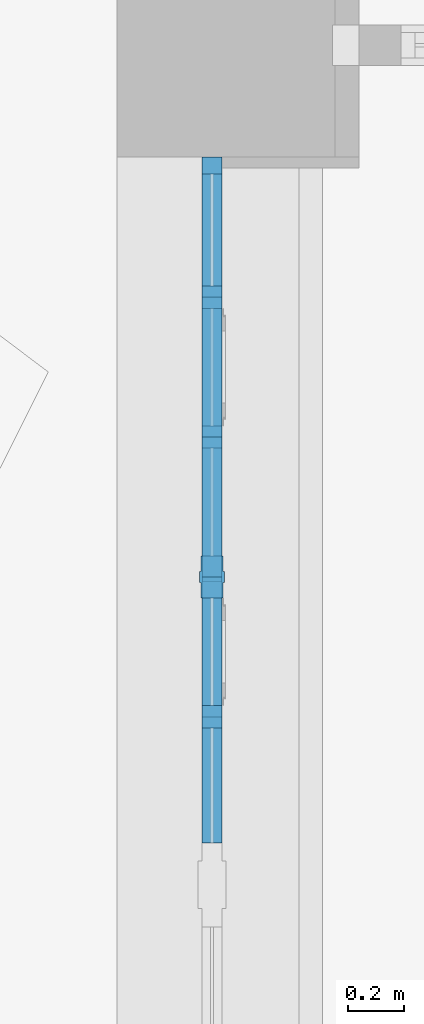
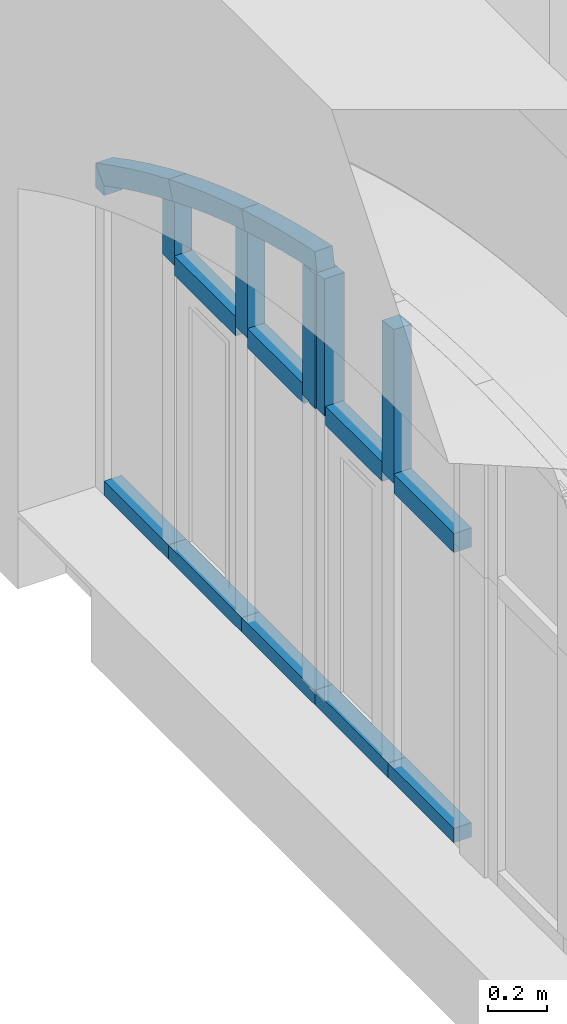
# One storey, part 23 of 88: 17 members, 1 element without a shape of its own.
"""IFC2X3 building model written with IfcOpenShell, lengths in millimetres."""

from ifc_helpers import new_model, entity, si_unit, converted_unit, derived_unit, direction, frame, frame_2d, origin, place, context, subcontext, project, spatial, polyline, circle_curve, parameter, trimmed, segment, composite_curve, rectangle, outline, extrude, faceted_brep, source, transform, mapped, material, type_object, type_shapes, element, aggregate, save


model = new_model("IFC2X3")

# Units and contexts
model_context = context("Model", 3, precision=0.01, world=origin(), true_north=direction((6.123031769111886e-17, 1.0)))
body_context = subcontext(model_context, "Body", "Model", "MODEL_VIEW")
ifc_project = project(units=[si_unit("LENGTHUNIT", "METRE", prefix="MILLI"), si_unit("AREAUNIT", "SQUARE_METRE"), si_unit("VOLUMEUNIT", "CUBIC_METRE"), converted_unit("PLANEANGLEUNIT", "DEGREE", entity("IfcPlaneAngleMeasure", 0.017453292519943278), si_unit("PLANEANGLEUNIT", "RADIAN"), dimensions=[0, 0, 0, 0, 0, 0, 0]), si_unit("MASSUNIT", "GRAM", prefix="KILO"), derived_unit("MASSDENSITYUNIT", [(si_unit("MASSUNIT", "GRAM", prefix="KILO"), 1), (si_unit("LENGTHUNIT", "METRE"), -3)]), derived_unit("IONCONCENTRATIONUNIT", [(si_unit("MASSUNIT", "GRAM", prefix="KILO"), 1), (si_unit("LENGTHUNIT", "METRE"), -3)]), derived_unit("MOMENTOFINERTIAUNIT", [(si_unit("LENGTHUNIT", "METRE"), 4)]), si_unit("TIMEUNIT", "SECOND"), si_unit("FREQUENCYUNIT", "HERTZ"), si_unit("THERMODYNAMICTEMPERATUREUNIT", "DEGREE_CELSIUS"), derived_unit("THERMALTRANSMITTANCEUNIT", [(si_unit("MASSUNIT", "GRAM", prefix="KILO"), 1), (si_unit("THERMODYNAMICTEMPERATUREUNIT", "KELVIN"), -1), (si_unit("TIMEUNIT", "SECOND"), -3)]), derived_unit("THERMALCONDUCTANCEUNIT", [(si_unit("MASSUNIT", "GRAM", prefix="KILO"), 1), (si_unit("THERMODYNAMICTEMPERATUREUNIT", "KELVIN"), -1), (si_unit("TIMEUNIT", "SECOND"), -3), (si_unit("LENGTHUNIT", "METRE"), 1)]), derived_unit("VOLUMETRICFLOWRATEUNIT", [(si_unit("LENGTHUNIT", "METRE", prefix="DECI"), 3), (si_unit("TIMEUNIT", "SECOND"), -1)]), derived_unit("MASSFLOWRATEUNIT", [(si_unit("MASSUNIT", "GRAM", prefix="KILO"), 1), (si_unit("TIMEUNIT", "SECOND"), -1)]), derived_unit("ROTATIONALFREQUENCYUNIT", [(si_unit("TIMEUNIT", "SECOND"), -1)]), si_unit("ELECTRICCURRENTUNIT", "AMPERE"), si_unit("ELECTRICVOLTAGEUNIT", "VOLT"), si_unit("POWERUNIT", "WATT"), si_unit("FORCEUNIT", "NEWTON", prefix="KILO"), si_unit("ILLUMINANCEUNIT", "LUX"), si_unit("LUMINOUSFLUXUNIT", "LUMEN"), si_unit("LUMINOUSINTENSITYUNIT", "CANDELA"), si_unit("ENERGYUNIT", "JOULE"), derived_unit("USERDEFINED", [(si_unit("MASSUNIT", "GRAM", prefix="KILO"), -1), (si_unit("LENGTHUNIT", "METRE"), -2), (si_unit("TIMEUNIT", "SECOND"), 3), (si_unit("LUMINOUSFLUXUNIT", "LUMEN"), 1)]), derived_unit("USERDEFINED", [(si_unit("MASSUNIT", "GRAM", prefix="KILO"), 1), (si_unit("TIMEUNIT", "SECOND"), -3), (si_unit("LENGTHUNIT", "METRE"), 3), (si_unit("ELECTRICCURRENTUNIT", "AMPERE"), -2)]), derived_unit("SOUNDPOWERUNIT", [(si_unit("MASSUNIT", "GRAM", prefix="KILO"), 1), (si_unit("TIMEUNIT", "SECOND"), -3), (si_unit("LENGTHUNIT", "METRE"), 2)]), derived_unit("SOUNDPRESSUREUNIT", [(si_unit("MASSUNIT", "GRAM", prefix="KILO"), 1), (si_unit("LENGTHUNIT", "METRE"), -1), (si_unit("TIMEUNIT", "SECOND"), -2)]), derived_unit("LINEARVELOCITYUNIT", [(si_unit("LENGTHUNIT", "METRE"), 1), (si_unit("TIMEUNIT", "SECOND"), -1)]), si_unit("PRESSUREUNIT", "PASCAL"), derived_unit("USERDEFINED", [(si_unit("MASSUNIT", "GRAM", prefix="KILO"), 1), (si_unit("LENGTHUNIT", "METRE"), -2), (si_unit("TIMEUNIT", "SECOND"), -2)]), derived_unit("LINEARFORCEUNIT", [(si_unit("MASSUNIT", "GRAM", prefix="KILO"), 1), (si_unit("TIMEUNIT", "SECOND"), -2)]), derived_unit("PLANARFORCEUNIT", [(si_unit("MASSUNIT", "GRAM", prefix="KILO"), 1), (si_unit("LENGTHUNIT", "METRE"), -1), (si_unit("TIMEUNIT", "SECOND"), -2)]), derived_unit("SPECIFICHEATCAPACITYUNIT", [(si_unit("THERMODYNAMICTEMPERATUREUNIT", "KELVIN"), -1), (si_unit("LENGTHUNIT", "METRE"), 2), (si_unit("TIMEUNIT", "SECOND"), -2)]), derived_unit("HEATFLUXDENSITYUNIT", [(si_unit("MASSUNIT", "GRAM", prefix="KILO"), 1), (si_unit("TIMEUNIT", "SECOND"), -3)]), derived_unit("HEATINGVALUEUNIT", [(si_unit("LENGTHUNIT", "METRE"), 2), (si_unit("TIMEUNIT", "SECOND"), -2)]), derived_unit("VAPORPERMEABILITYUNIT", [(si_unit("LENGTHUNIT", "METRE"), -1), (si_unit("TIMEUNIT", "SECOND"), 1)]), derived_unit("DYNAMICVISCOSITYUNIT", [(si_unit("MASSUNIT", "GRAM", prefix="KILO"), 1), (si_unit("TIMEUNIT", "SECOND"), -1), (si_unit("LENGTHUNIT", "METRE"), -1)]), derived_unit("THERMALEXPANSIONCOEFFICIENTUNIT", [(si_unit("THERMODYNAMICTEMPERATUREUNIT", "KELVIN"), -1)]), derived_unit("MODULUSOFELASTICITYUNIT", [(si_unit("MASSUNIT", "GRAM", prefix="KILO"), 1), (si_unit("LENGTHUNIT", "METRE"), -1), (si_unit("TIMEUNIT", "SECOND"), -2)]), derived_unit("ISOTHERMALMOISTURECAPACITYUNIT", [(si_unit("MASSUNIT", "GRAM", prefix="KILO"), -1), (si_unit("LENGTHUNIT", "METRE"), 3)]), derived_unit("MOISTUREDIFFUSIVITYUNIT", [(si_unit("TIMEUNIT", "SECOND"), -1), (si_unit("LENGTHUNIT", "METRE"), 2)]), derived_unit("MASSPERLENGTHUNIT", [(si_unit("MASSUNIT", "GRAM", prefix="KILO"), 1), (si_unit("LENGTHUNIT", "METRE"), -1)]), derived_unit("THERMALRESISTANCEUNIT", [(si_unit("MASSUNIT", "GRAM", prefix="KILO"), -1), (si_unit("TIMEUNIT", "SECOND"), 3), (si_unit("THERMODYNAMICTEMPERATUREUNIT", "KELVIN"), 1)]), derived_unit("ACCELERATIONUNIT", [(si_unit("LENGTHUNIT", "METRE"), 1), (si_unit("TIMEUNIT", "SECOND"), -2)]), derived_unit("ANGULARVELOCITYUNIT", [(si_unit("TIMEUNIT", "SECOND"), -1), (si_unit("PLANEANGLEUNIT", "RADIAN"), 1)]), derived_unit("LINEARSTIFFNESSUNIT", [(si_unit("MASSUNIT", "GRAM", prefix="KILO"), 1), (si_unit("TIMEUNIT", "SECOND"), -2)]), derived_unit("WARPINGCONSTANTUNIT", [(si_unit("LENGTHUNIT", "METRE"), 6)]), derived_unit("LINEARMOMENTUNIT", [(si_unit("MASSUNIT", "GRAM", prefix="KILO"), 1), (si_unit("LENGTHUNIT", "METRE"), 1), (si_unit("TIMEUNIT", "SECOND"), -2)]), derived_unit("TORQUEUNIT", [(si_unit("MASSUNIT", "GRAM", prefix="KILO"), 1), (si_unit("LENGTHUNIT", "METRE"), 2), (si_unit("TIMEUNIT", "SECOND"), -2)])], contexts=[model_context])

# Site, building, storey
site_placement = place(None, origin())
site = spatial("IfcSite", under=ifc_project, at=site_placement, Name="Default", CompositionType="ELEMENT")
building_placement = place(site_placement, origin())
building = spatial("IfcBuilding", under=site, at=building_placement, Name="Eesti Rahvusraamatukogu hoone renoveerimise projekteerimistööd", CompositionType="ELEMENT")
storey_placement = place(building_placement, origin())
storey = spatial("IfcBuildingStorey", under=building, at=storey_placement, Name="1. korrus", CompositionType="ELEMENT", Elevation=0.0)

# Curtain wall, members
curtain_wall_type = type_object("IfcCurtainWallType", Name="Curtain Wall:Ak-02", PredefinedType="NOTDEFINED")
curtain_wall_placement = place(storey_placement, origin())
curtain_wall = element("IfcCurtainWall", 1, at=curtain_wall_placement, inside=storey, type_object=curtain_wall_type, Name="Curtain Wall:Ak-02", ObjectType="Curtain Wall:Ak-02")
ifc_material = material(Name="LUMION_dark steel window frames")
member_type_1 = type_object("IfcMemberType", Name="Rectangular Mullion:NEW 80x70mm", PredefinedType="MULLION", material=ifc_material)
shared_shape_1 = source(origin(), body_context, "Body", "SweptSolid", [
    extrude(outline(composite_curve([segment(trimmed(circle_curve(frame_2d((5127.857298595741, 1916.0902897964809), x_axis=(-0.9185017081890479, -0.39541701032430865)), 5520.7156800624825), [parameter(354.2613575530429)], [parameter(359.99999999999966)], True, "PARAMETER"), True, "CONTINUOUS"), segment(polyline([(57.07051603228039, -266.8945992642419), (130.55065268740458, -235.2612384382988)]), True, "CONTINUOUS"), segment(trimmed(circle_curve(frame_2d((5127.857298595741, 1916.0902897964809), x_axis=(-0.9185017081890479, -0.39541701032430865)), 5440.7156800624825), [parameter(354.52804849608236)], [parameter(359.99999999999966)], True, "PARAMETER"), False, "CONTINUOUS"), segment(polyline([(-51.82617782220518, 251.07791885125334), (-135.79499089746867, 251.0779188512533)]), True, "CONTINUOUS")], self_intersect=False)), frame((-53.11529804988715, -35.0, -267.709798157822), z_axis=(0.0, -1.0, 0.0), x_axis=(-0.918501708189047, 0.0, 0.3954170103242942)), (0.0, 0.0, -1.0), 69.99999999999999),
])
type_shapes(member_type_1, [shared_shape_1])
member_1_placement = place(curtain_wall_placement, frame((-36440.0, 11490.0, 3555.5687442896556), z_axis=(0.0, -0.9248280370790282, 0.3803854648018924), x_axis=(0.0, 0.3803854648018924, 0.9248280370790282)))
member_1 = element("IfcMember", 2, at=member_1_placement, type_object=member_type_1, material=ifc_material, Name="Rectangular Mullion:NEW 80x70mm", ObjectType="Rectangular Mullion:NEW 80x70mm", context=body_context, shape_type="MappedRepresentation", body=[
    mapped(shared_shape_1, transform((0.0, 0.0, 0.0), scale=1.0)),
])
member_type_2 = type_object("IfcMemberType", Name="Rectangular Mullion:NEW 80x70mm", PredefinedType="MULLION", material=ifc_material)
shared_shape_2 = source(origin(), body_context, "Body", "SweptSolid", [
    extrude(outline(composite_curve([segment(polyline([(-52.664386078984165, -263.1530214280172), (27.33561392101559, -263.1530214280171)]), True, "CONTINUOUS"), segment(trimmed(circle_curve(frame_2d((5468.051293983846, -263.1530214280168), x_axis=(-0.9953785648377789, 0.09602870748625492)), 5440.715680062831), [parameter(3.5622212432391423e-13)], [parameter(5.510531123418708)], True, "PARAMETER"), False, "CONTINUOUS"), segment(polyline([(52.479528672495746, 259.31187312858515), (-27.150756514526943, 266.9941697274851)]), True, "CONTINUOUS"), segment(trimmed(circle_curve(frame_2d((5468.051293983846, -263.1530214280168), x_axis=(-0.9953785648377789, 0.09602870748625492)), 5520.715680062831), [parameter(3.5622212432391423e-13)], [parameter(5.510531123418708)], True, "PARAMETER"), True, "CONTINUOUS")], self_intersect=False)), frame((-52.66438607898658, -35.0, -263.1530214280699), z_axis=(0.0, 1.0, 0.0), x_axis=(-0.9953785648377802, 0.0, 0.09602870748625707)), (0.0, 0.0, 1.0), 69.99999999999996),
])
type_shapes(member_type_2, [shared_shape_2])
member_2_placement = place(curtain_wall_placement, frame((-36440.0, 10990.0, 3733.6333100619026), z_axis=(0.0, -0.9570819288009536, 0.2898174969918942), x_axis=(0.0, 0.2898174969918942, 0.9570819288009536)))
member_2 = element("IfcMember", 3, at=member_2_placement, type_object=member_type_2, material=ifc_material, Name="Rectangular Mullion:NEW 80x70mm", ObjectType="Rectangular Mullion:NEW 80x70mm", context=body_context, shape_type="MappedRepresentation", body=[
    mapped(shared_shape_2, transform((0.0, 0.0, 0.0), scale=1.0)),
])
member_type_3 = type_object("IfcMemberType", Name="Rectangular Mullion:NEW 80x70mm", PredefinedType="MULLION", material=ifc_material)
shared_shape_3 = source(origin(), body_context, "Body", "SweptSolid", [
    extrude(outline(composite_curve([segment(polyline([(-51.955427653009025, -255.69780513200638), (28.04457234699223, -255.69780513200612)]), True, "CONTINUOUS"), segment(trimmed(circle_curve(frame_2d((5468.760252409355, -255.69780513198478), x_axis=(-0.9956372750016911, 0.09330818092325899)), 5440.715680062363), [parameter(3.5622212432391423e-13)], [parameter(5.353953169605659)], True, "PARAMETER"), False, "CONTINUOUS"), segment(polyline([(51.78091865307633, 251.96547789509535), (-27.870063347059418, 259.4301323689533)]), True, "CONTINUOUS"), segment(trimmed(circle_curve(frame_2d((5468.760252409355, -255.69780513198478), x_axis=(-0.9956372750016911, 0.09330818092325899)), 5520.715680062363), [parameter(3.5622212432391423e-13)], [parameter(5.353953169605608)], True, "PARAMETER"), True, "CONTINUOUS")], self_intersect=False)), frame((-51.95542765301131, -35.0, -255.69780513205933), z_axis=(0.0, 1.0, 0.0), x_axis=(-0.9956372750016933, 0.0, 0.09330818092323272)), (0.0, 0.0, 1.0), 70.00000000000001),
])
type_shapes(member_type_3, [shared_shape_3])
member_3_placement = place(curtain_wall_placement, frame((-36440.0, 10490.0, 3859.874732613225), z_axis=(0.0, -0.979948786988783, 0.19924952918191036), x_axis=(0.0, 0.19924952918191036, 0.979948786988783)))
member_3 = element("IfcMember", 4, at=member_3_placement, type_object=member_type_3, material=ifc_material, Name="Rectangular Mullion:NEW 80x70mm", ObjectType="Rectangular Mullion:NEW 80x70mm", context=body_context, shape_type="MappedRepresentation", body=[
    mapped(shared_shape_3, transform((0.0, 0.0, 0.0), scale=1.0)),
])
member_type_4 = type_object("IfcMemberType", Name="Rectangular Mullion:NEW 80x70mm", PredefinedType="MULLION", material=ifc_material)
shared_shape_4 = source(origin(), body_context, "Body", "SweptSolid", [
    extrude(outline(composite_curve([segment(polyline([(-151.82490852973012, -33.91383256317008), (113.68279751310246, -33.91383256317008)]), True, "CONTINUOUS"), segment(trimmed(circle_curve(frame_2d((-4921.968809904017, -2093.9138325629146), x_axis=(0.9570819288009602, 0.2898174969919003)), 5440.715680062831), [parameter(5.401610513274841)], [parameter(5.510531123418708)], True, "PARAMETER"), True, "CONTINUOUS"), segment(trimmed(circle_curve(frame_2d((-4921.968809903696, -2093.9138325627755), x_axis=(0.9248280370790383, 0.38038546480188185)), 5440.7156800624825), [parameter(0.0)], [parameter(0.8043376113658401)], True, "PARAMETER"), True, "CONTINUOUS"), segment(polyline([(80.20942675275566, 46.08616743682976), (-151.82490852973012, 46.08616743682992)]), True, "CONTINUOUS"), segment(polyline([(-151.82490852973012, 46.08616743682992), (-151.82490852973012, -33.91383256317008)]), True, "CONTINUOUS")], self_intersect=False)), frame((6.086167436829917, -35.0, -151.82490852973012), z_axis=(0.0, 1.0, 0.0), x_axis=(0.0, 0.0, -1.0)), (0.0, 0.0, 1.0), 69.99999999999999),
])
type_shapes(member_type_4, [shared_shape_4])
member_4_placement = place(curtain_wall_placement, frame((-36440.0, 11490.0, 3220.0), z_axis=(0.0, 0.0, -1.0), x_axis=(0.0, -1.0, 0.0)))
member_4 = element("IfcMember", 5, at=member_4_placement, type_object=member_type_4, material=ifc_material, Name="Rectangular Mullion:NEW 80x70mm", ObjectType="Rectangular Mullion:NEW 80x70mm", context=body_context, shape_type="MappedRepresentation", body=[
    mapped(shared_shape_4, transform((0.0, 0.0, 0.0), scale=1.0)),
])
member_type_5 = type_object("IfcMemberType", Name="Rectangular Mullion:NEW 80x70mm", PredefinedType="MULLION", material=ifc_material)
shared_shape_5 = source(origin(), body_context, "Body", "SweptSolid", [
    extrude(outline(composite_curve([segment(polyline([(-259.34177632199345, -35.36292004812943), (182.78706183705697, -35.36292004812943)]), True, "CONTINUOUS"), segment(trimmed(circle_curve(frame_2d((-5029.485677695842, -1595.3629200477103), x_axis=(0.9799487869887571, 0.19924952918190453)), 5440.715680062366), [parameter(5.169029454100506)], [parameter(5.353953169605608)], True, "PARAMETER"), True, "CONTINUOUS"), segment(trimmed(circle_curve(frame_2d((-5029.48567769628, -1595.362920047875), x_axis=(0.9570819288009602, 0.2898174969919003)), 5440.715680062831), [parameter(0.0)], [parameter(0.6965383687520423)], True, "PARAMETER"), True, "CONTINUOUS"), segment(polyline([(158.17151137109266, 44.63707995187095), (-259.34177632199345, 44.63707995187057)]), True, "CONTINUOUS"), segment(polyline([(-259.34177632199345, 44.63707995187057), (-259.34177632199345, -35.36292004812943)]), True, "CONTINUOUS")], self_intersect=False)), frame((4.637079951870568, -35.0, -259.34177632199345), z_axis=(0.0, 1.0, 0.0), x_axis=(0.0, 0.0, -1.0)), (0.0, 0.0, 1.0), 70.00000000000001),
])
type_shapes(member_type_5, [shared_shape_5])
member_5_placement = place(curtain_wall_placement, frame((-36440.0, 10990.0, 3220.0), z_axis=(0.0, 0.0, -1.0), x_axis=(0.0, -1.0, 0.0)))
member_5 = element("IfcMember", 6, at=member_5_placement, type_object=member_type_5, material=ifc_material, Name="Rectangular Mullion:NEW 80x70mm", ObjectType="Rectangular Mullion:NEW 80x70mm", context=body_context, shape_type="MappedRepresentation", body=[
    mapped(shared_shape_5, transform((0.0, 0.0, 0.0), scale=1.0)),
])
member_type_6 = type_object("IfcMemberType", Name="Rectangular Mullion:NEW 150x90mm", PredefinedType="MULLION", material=ifc_material)
shared_shape_6 = source(origin(), body_context, "Body", "Brep", [
    faceted_brep([(-20.0, -40.0, 0.0), (-20.0, -45.0, 0.0), (20.0, -45.0, 0.0), (20.0, -40.0, 0.0), (75.0, -40.0, 0.0), (75.0, 40.0, 0.0), (20.0, 40.0, 0.0), (20.0, 45.0, 0.0), (-20.0, 45.0, 0.0), (-20.0, 40.0, 0.0), (-75.0, 40.0, 0.0), (-75.0, -40.0, 0.0), (-20.0, 40.0, -554.0449674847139), (-47.51534075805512, 40.0, -548.1824945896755), (-75.0, 40.0, -542.1778237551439), (75.0, 40.0, -573.1474168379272), (47.48603249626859, 40.0, -567.7959127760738), (20.0, 40.0, -562.3027332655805), (-75.0, -40.0, -542.1778237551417), (-47.515340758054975, -40.0, -548.1824945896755), (-20.0, -40.0, -554.0449674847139), (20.0, -40.0, -562.30273326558), (47.48603249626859, -40.0, -567.7959127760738), (75.0, -40.0, -573.1474168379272), (-20.0, -45.0, -554.0449674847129), (-20.0, 45.0, -554.0449674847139), (-2.036281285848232, -45.0, -557.7922042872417), (15.939962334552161, -45.0, -561.4788296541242), (17.969902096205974, -45.0, -561.8911677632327), (20.0, -45.0, -562.3027332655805), (20.0, 45.0, -562.30273326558), (17.969902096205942, 45.0, -561.8911677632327), (15.939962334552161, 45.0, -561.4788296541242), (-2.036281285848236, 45.0, -557.7922042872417), (15.939962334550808, 33.74999999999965, -561.4788296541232), (15.939962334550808, 22.499999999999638, -561.4788296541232), (15.939962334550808, 0.0, -561.4788296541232), (15.939962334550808, -22.500000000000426, -561.4788296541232), (15.939962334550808, -33.75000000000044, -561.4788296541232)], [[[0, 1, 2, 3, 4, 5, 6, 7, 8, 9, 10, 11]], [[10, 9, 12, 13, 14]], [[6, 5, 15, 16, 17]], [[11, 10, 14, 18]], [[0, 11, 18, 19, 20]], [[4, 3, 21, 22, 23]], [[1, 0, 20, 24]], [[9, 8, 25, 12]], [[1, 24, 26, 27, 28, 29, 2]], [[3, 2, 29, 21]], [[7, 6, 17, 30]], [[5, 4, 23, 15]], [[7, 30, 31, 32, 33, 25, 8]], [[26, 33, 32, 34, 35, 36, 37, 38, 27]], [[20, 12, 25, 33, 26, 24]], [[20, 19, 13, 12]], [[19, 18, 14, 13]], [[15, 23, 22, 16]], [[17, 35, 34, 32]], [[21, 27, 38, 37]], [[16, 35, 17]], [[21, 37, 22]], [[36, 35, 16, 22, 37]], [[27, 21, 28]], [[31, 30, 17]], [[28, 21, 29]], [[17, 32, 31]]]),
])
type_shapes(member_type_6, [shared_shape_6])
member_6_placement = place(curtain_wall_placement, frame((-36440.0, 10490.0, 3220.0), z_axis=(0.0, 0.0, -1.0), x_axis=(0.0, -1.0, 0.0)))
member_6 = element("IfcMember", 7, at=member_6_placement, type_object=member_type_6, material=ifc_material, Name="Rectangular Mullion:NEW 150x90mm", ObjectType="Rectangular Mullion:NEW 150x90mm", context=body_context, shape_type="MappedRepresentation", body=[
    mapped(shared_shape_6, transform((0.0, 0.0, 0.0), scale=1.0)),
])
member_type_7 = type_object("IfcMemberType", Name="Rectangular Mullion:NEW 80x70mm", PredefinedType="MULLION", material=ifc_material)
shared_shape_7 = source(origin(), body_context, "Body", "SweptSolid", [
    extrude(outline(composite_curve([segment(polyline([(-382.563636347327, -38.261095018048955), (259.11166761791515, -38.261095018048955)]), True, "CONTINUOUS"), segment(trimmed(circle_curve(frame_2d((-5152.707537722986, -598.2610950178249), x_axis=(1.0, 0.0)), 5440.715680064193), [parameter(5.907781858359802)], [parameter(6.239318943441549)], True, "PARAMETER"), True, "CONTINUOUS"), segment(trimmed(circle_curve(frame_2d((-5152.707537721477, -598.2610950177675), x_axis=(0.994076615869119, 0.10868156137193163)), 5440.715680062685), [parameter(0.0)], [parameter(0.5161152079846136)], True, "PARAMETER"), True, "CONTINUOUS"), segment(polyline([(250.23491165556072, 41.73890498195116), (-382.563636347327, 41.738904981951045)]), True, "CONTINUOUS"), segment(polyline([(-382.563636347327, 41.738904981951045), (-382.563636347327, -38.261095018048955)]), True, "CONTINUOUS")], self_intersect=False)), frame((1.7389049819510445, -35.0, -382.563636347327), z_axis=(0.0, 1.0, 0.0), x_axis=(0.0, 0.0, -1.0)), (0.0, 0.0, 1.0), 69.99999999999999),
])
type_shapes(member_type_7, [shared_shape_7])
member_7_placement = place(curtain_wall_placement, frame((-36440.0, 9990.0, 3220.0), z_axis=(0.0, 0.0, -1.0), x_axis=(0.0, -1.0, 0.0)))
member_7 = element("IfcMember", 8, at=member_7_placement, type_object=member_type_7, material=ifc_material, Name="Rectangular Mullion:NEW 80x70mm", ObjectType="Rectangular Mullion:NEW 80x70mm", context=body_context, shape_type="MappedRepresentation", body=[
    mapped(shared_shape_7, transform((0.0, 0.0, 0.0), scale=1.0)),
])
member_type_8 = type_object("IfcMemberType", Name="Rectangular Mullion:NEW 80x70mm", PredefinedType="MULLION", material=ifc_material)
shared_shape_8 = source(origin(), body_context, "Body", "SweptSolid", [
    extrude(rectangle(XDim=80.0, YDim=70.0, at=frame_2d((0.0, -3.552713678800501e-15), x_axis=(1.0, 0.0))), frame((0.0, 0.0, -420.0), z_axis=(0.0, 0.0, 1.0), x_axis=(-1.0, 0.0, 0.0)), (0.0, 0.0, 1.0), 419.999999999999),
])
type_shapes(member_type_8, [shared_shape_8])
member_8_placement = place(curtain_wall_placement, frame((-36440.0, 11030.0, 3220.0), z_axis=(0.0, -1.0, 0.0), x_axis=(0.0, 0.0, 1.0)))
member_8 = element("IfcMember", 9, at=member_8_placement, type_object=member_type_8, material=ifc_material, Name="Rectangular Mullion:NEW 80x70mm", ObjectType="Rectangular Mullion:NEW 80x70mm", context=body_context, shape_type="MappedRepresentation", body=[
    mapped(shared_shape_8, transform((0.0, 0.0, 0.0), scale=1.0)),
])
member_type_9 = type_object("IfcMemberType", Name="Rectangular Mullion:NEW 80x70mm", PredefinedType="MULLION", material=ifc_material)
shared_shape_9 = source(origin(), body_context, "Body", "SweptSolid", [
    extrude(rectangle(XDim=80.0, YDim=70.0, at=frame_2d((0.0, -3.552713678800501e-15), x_axis=(1.0, 0.0))), frame((0.0, 0.0, -385.0), z_axis=(0.0, 0.0, 1.0), x_axis=(-1.0, 0.0, 0.0)), (0.0, 0.0, 1.0), 384.99999999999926),
])
type_shapes(member_type_9, [shared_shape_9])
member_9_placement = place(curtain_wall_placement, frame((-36440.0, 10565.0, 3220.0), z_axis=(0.0, -1.0, 0.0), x_axis=(0.0, 0.0, 1.0)))
member_9 = element("IfcMember", 10, at=member_9_placement, type_object=member_type_9, material=ifc_material, Name="Rectangular Mullion:NEW 80x70mm", ObjectType="Rectangular Mullion:NEW 80x70mm", context=body_context, shape_type="MappedRepresentation", body=[
    mapped(shared_shape_9, transform((0.0, 0.0, 0.0), scale=1.0)),
])
member_10_placement = place(curtain_wall_placement, frame((-36440.0, 10030.0, 3220.0), z_axis=(0.0, -1.0, 0.0), x_axis=(0.0, 0.0, 1.0)))
member_10 = element("IfcMember", 11, at=member_10_placement, type_object=member_type_9, material=ifc_material, Name="Rectangular Mullion:NEW 80x70mm", ObjectType="Rectangular Mullion:NEW 80x70mm", context=body_context, shape_type="MappedRepresentation", body=[
    mapped(shared_shape_9, transform((0.0, 0.0, 0.0), scale=1.0)),
])
member_type_10 = type_object("IfcMemberType", Name="Rectangular Mullion:NEW 80x70mm", PredefinedType="MULLION", material=ifc_material)
shared_shape_10 = source(origin(), body_context, "Body", "SweptSolid", [
    extrude(rectangle(XDim=80.0, YDim=70.0, at=frame_2d((0.0, -3.552713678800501e-15), x_axis=(1.0, 0.0))), frame((0.0, 0.0, -410.0), z_axis=(0.0, 0.0, 1.0), x_axis=(-1.0, 0.0, 0.0)), (0.0, 0.0, 1.0), 409.9999999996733),
])
type_shapes(member_type_10, [shared_shape_10])
member_11_placement = place(curtain_wall_placement, frame((-36440.0, 9540.0, 3220.0), z_axis=(0.0, -1.0, 0.0), x_axis=(0.0, 0.0, 1.0)))
member_11 = element("IfcMember", 12, at=member_11_placement, type_object=member_type_10, material=ifc_material, Name="Rectangular Mullion:NEW 80x70mm", ObjectType="Rectangular Mullion:NEW 80x70mm", context=body_context, shape_type="MappedRepresentation", body=[
    mapped(shared_shape_10, transform((0.0, 0.0, 0.0), scale=1.0)),
])
member_type_11 = type_object("IfcMemberType", Name="Rectangular Mullion:NEW 60x70mm", PredefinedType="MULLION", material=ifc_material)
shared_shape_11 = source(origin(), body_context, "Body", "SweptSolid", [
    extrude(rectangle(XDim=60.0, YDim=70.0, at=frame_2d((0.0, 3.552713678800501e-15), x_axis=(1.0, 0.0))), frame((-30.0, 0.0, -500.0), z_axis=(0.0, 0.0, 1.0), x_axis=(-1.0, 0.0, 0.0)), (0.0, 0.0, 1.0), 499.999999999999),
])
type_shapes(member_type_11, [shared_shape_11])
member_12_placement = place(curtain_wall_placement, frame((-36440.0, 11490.0, 1970.0), z_axis=(0.0, 1.0, 0.0), x_axis=(0.0, 0.0, -1.0)))
member_12 = element("IfcMember", 13, at=member_12_placement, type_object=member_type_11, material=ifc_material, Name="Rectangular Mullion:NEW 60x70mm", ObjectType="Rectangular Mullion:NEW 60x70mm", context=body_context, shape_type="MappedRepresentation", body=[
    mapped(shared_shape_11, transform((0.0, 0.0, 0.0), scale=1.0)),
])
member_13_placement = place(curtain_wall_placement, frame((-36440.0, 10990.0, 1970.0), z_axis=(0.0, 1.0, 0.0), x_axis=(0.0, 0.0, -1.0)))
member_13 = element("IfcMember", 14, at=member_13_placement, type_object=member_type_11, material=ifc_material, Name="Rectangular Mullion:NEW 60x70mm", ObjectType="Rectangular Mullion:NEW 60x70mm", context=body_context, shape_type="MappedRepresentation", body=[
    mapped(shared_shape_11, transform((0.0, 0.0, 0.0), scale=1.0)),
])
member_14_placement = place(curtain_wall_placement, frame((-36440.0, 10490.0, 1970.0), z_axis=(0.0, 1.0, 0.0), x_axis=(0.0, 0.0, -1.0)))
member_14 = element("IfcMember", 15, at=member_14_placement, type_object=member_type_11, material=ifc_material, Name="Rectangular Mullion:NEW 60x70mm", ObjectType="Rectangular Mullion:NEW 60x70mm", context=body_context, shape_type="MappedRepresentation", body=[
    mapped(shared_shape_11, transform((0.0, 0.0, 0.0), scale=1.0)),
])
member_type_12 = type_object("IfcMemberType", Name="Rectangular Mullion:NEW 60x70mm", PredefinedType="MULLION", material=ifc_material)
shared_shape_12 = source(origin(), body_context, "Body", "SweptSolid", [
    extrude(rectangle(XDim=60.0, YDim=70.0, at=frame_2d((0.0, 3.552713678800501e-15), x_axis=(1.0, 0.0))), frame((-30.0, 0.0, -450.0), z_axis=(0.0, 0.0, 1.0), x_axis=(-1.0, 0.0, 0.0)), (0.0, 0.0, 1.0), 449.99999999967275),
])
type_shapes(member_type_12, [shared_shape_12])
member_15_placement = place(curtain_wall_placement, frame((-36440.0, 9990.0, 1970.0), z_axis=(0.0, 1.0, 0.0), x_axis=(0.0, 0.0, -1.0)))
member_15 = element("IfcMember", 16, at=member_15_placement, type_object=member_type_12, material=ifc_material, Name="Rectangular Mullion:NEW 60x70mm", ObjectType="Rectangular Mullion:NEW 60x70mm", context=body_context, shape_type="MappedRepresentation", body=[
    mapped(shared_shape_12, transform((0.0, 0.0, 0.0), scale=1.0)),
])
member_type_13 = type_object("IfcMemberType", Name="Rectangular Mullion:NEW 60x70mm", PredefinedType="MULLION", material=ifc_material)
shared_shape_13 = source(origin(), body_context, "Body", "SweptSolid", [
    extrude(rectangle(XDim=60.0, YDim=70.0, at=frame_2d((0.0, 3.552713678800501e-15), x_axis=(1.0, 0.0))), frame((-30.0, 0.0, -440.0), z_axis=(0.0, 0.0, 1.0), x_axis=(-1.0, 0.0, 0.0)), (0.0, 0.0, 1.0), 439.9999999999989),
])
type_shapes(member_type_13, [shared_shape_13])
member_16_placement = place(curtain_wall_placement, frame((-36440.0, 11930.0, 1970.0), z_axis=(0.0, 1.0, 0.0), x_axis=(0.0, 0.0, -1.0)))
member_16 = element("IfcMember", 17, at=member_16_placement, type_object=member_type_13, material=ifc_material, Name="Rectangular Mullion:NEW 60x70mm", ObjectType="Rectangular Mullion:NEW 60x70mm", context=body_context, shape_type="MappedRepresentation", body=[
    mapped(shared_shape_13, transform((0.0, 0.0, 0.0), scale=1.0)),
])
member_type_14 = type_object("IfcMemberType", Name="Rectangular Mullion:NEW 60x70mm", PredefinedType="MULLION", material=ifc_material)
shared_shape_14 = source(origin(), body_context, "Body", "SweptSolid", [
    extrude(outline(polyline([(-64.66369681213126, -30.0), (35.336303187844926, -30.0), (35.336303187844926, 30.0), (-6.008909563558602, 30.0), (-64.66369681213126, -30.0)])), frame((-30.0, -35.0, -64.66369681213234), z_axis=(0.0, 1.0, 0.0), x_axis=(0.0, 0.0, -1.0)), (0.0, 0.0, 1.0), 69.99999999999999),
])
type_shapes(member_type_14, [shared_shape_14])
member_17_placement = place(curtain_wall_placement, frame((-36440.0, 11990.0, 3320.0), z_axis=(0.0, 0.0, 1.0), x_axis=(0.0, 1.0, 0.0)))
member_17 = element("IfcMember", 18, at=member_17_placement, type_object=member_type_14, material=ifc_material, Name="Rectangular Mullion:NEW 60x70mm", ObjectType="Rectangular Mullion:NEW 60x70mm", context=body_context, shape_type="MappedRepresentation", body=[
    mapped(shared_shape_14, transform((0.0, 0.0, 0.0), scale=1.0)),
])
aggregate(curtain_wall, [member_1, member_2, member_3, member_4, member_5, member_6, member_7, member_8, member_9, member_10, member_11, member_12, member_13, member_14, member_15, member_16, member_17])

save(model, "model.ifc")
